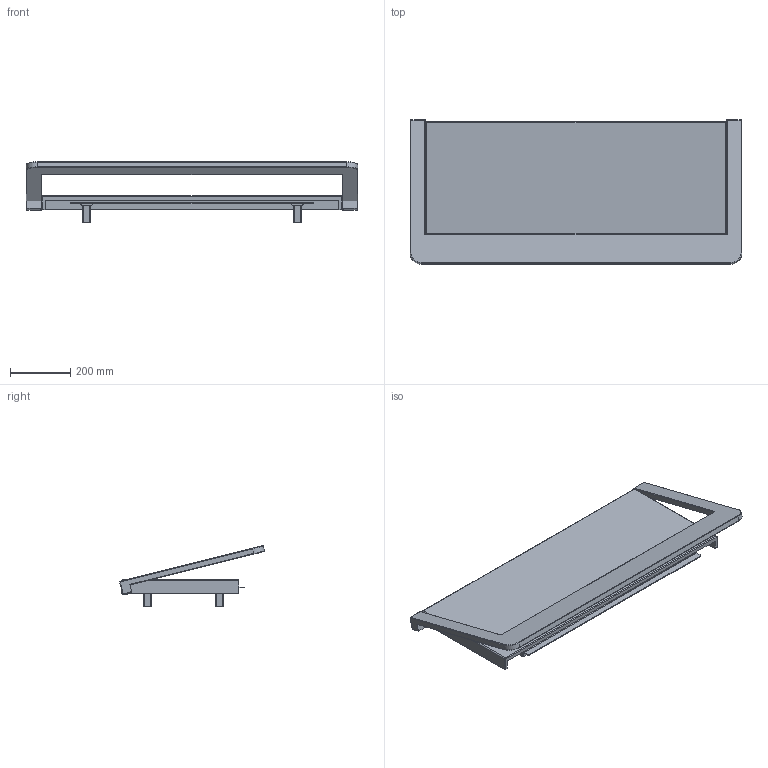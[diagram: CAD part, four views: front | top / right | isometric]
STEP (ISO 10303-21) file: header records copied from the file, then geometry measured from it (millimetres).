
FILE_DESCRIPTION((''),'2;1');
FILE_NAME('3581420002002_3D_SITO','2022-05-24T10:08:21',('pc104'),(''),'CREO PARAMETRIC BY PTC INC, 2021404','CREO PARAMETRIC BY PTC INC, 2021404','');
FILE_SCHEMA(('AUTOMOTIVE_DESIGN { 1 0 10303 214 1 1 1 1 }'));
Length unit declared in the file: millimetre
Products named in the file (1): 3581420002002_3D_SITO
Bounding box: 1102 x 480.89 x 201.14 mm (x, y, z)
Volume: 10282054.9 mm3; surface area: 1395944.8 mm2
Topology: 2 solids, 2 shells, 189 faces, 455 edges, 278 vertices
Faces by surface type: plane 86, cylinder 79, bspline 8, sphere 8, torus 8
Entity records: 10545 total; most frequent: CARTESIAN_POINT 2825, DIRECTION 1008, ORIENTED_EDGE 910, PRESENTATION_STYLE_ASSIGNMENT 553, STYLED_ITEM 478, CURVE_STYLE 476, EDGE_CURVE 455, AXIS2_PLACEMENT_3D 352
